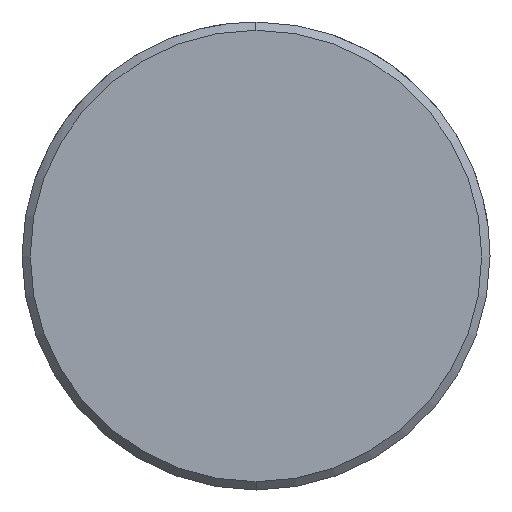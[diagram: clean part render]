
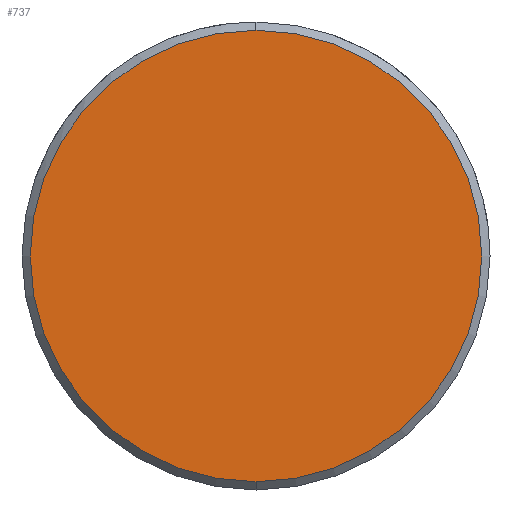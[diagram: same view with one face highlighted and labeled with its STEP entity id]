
A CAD part, left-side view. The second image highlights one B-rep face of the part: STEP entity #737.
In plain terms, the highlighted planar face has unit normal (-1, 0, 0).
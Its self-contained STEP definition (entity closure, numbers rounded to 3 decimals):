
#669=CARTESIAN_POINT('Vertex',(0.,0.,-8.2)) ;
#672=CARTESIAN_POINT('Axis2P3D Location',(0.,0.,0.)) ;
#676=CARTESIAN_POINT('Vertex',(0.,8.2,0.)) ;
#679=CARTESIAN_POINT('Axis2P3D Location',(0.,0.,0.)) ;
#683=CARTESIAN_POINT('Vertex',(0.,0.,8.2)) ;
#705=CARTESIAN_POINT('Axis2P3D Location',(0.,0.,0.)) ;
#709=CARTESIAN_POINT('Vertex',(0.,-8.2,0.)) ;
#712=CARTESIAN_POINT('Axis2P3D Location',(0.,0.,0.)) ;
#726=CARTESIAN_POINT('Axis2P3D Location',(0.,0.,0.)) ;
#673=DIRECTION('Axis2P3D Direction',(1.,0.,-0.)) ;
#680=DIRECTION('Axis2P3D Direction',(1.,0.,-0.)) ;
#706=DIRECTION('Axis2P3D Direction',(1.,0.,-0.)) ;
#713=DIRECTION('Axis2P3D Direction',(1.,0.,-0.)) ;
#727=DIRECTION('Axis2P3D Direction',(1.,0.,-0.)) ;
#728=DIRECTION('Axis2P3D XDirection',(-0.,0.,-1.)) ;
#674=AXIS2_PLACEMENT_3D('Circle Axis2P3D',#672,#673,$) ;
#681=AXIS2_PLACEMENT_3D('Circle Axis2P3D',#679,#680,$) ;
#707=AXIS2_PLACEMENT_3D('Circle Axis2P3D',#705,#706,$) ;
#714=AXIS2_PLACEMENT_3D('Circle Axis2P3D',#712,#713,$) ;
#729=AXIS2_PLACEMENT_3D('Plane Axis2P3D',#726,#727,#728) ;
#732=ORIENTED_EDGE('',*,*,#678,.F.) ;
#733=ORIENTED_EDGE('',*,*,#716,.F.) ;
#734=ORIENTED_EDGE('',*,*,#711,.F.) ;
#735=ORIENTED_EDGE('',*,*,#685,.F.) ;
#737=ADVANCED_FACE('549-14X120',(#736),#730,.F.) ;
#675=CIRCLE('generated circle',#674,8.2) ;
#682=CIRCLE('generated circle',#681,8.2) ;
#708=CIRCLE('generated circle',#707,8.2) ;
#715=CIRCLE('generated circle',#714,8.2) ;
#678=EDGE_CURVE('',#670,#677,#675,.T.) ;
#685=EDGE_CURVE('',#677,#684,#682,.T.) ;
#711=EDGE_CURVE('',#684,#710,#708,.T.) ;
#716=EDGE_CURVE('',#710,#670,#715,.T.) ;
#731=EDGE_LOOP('',(#732,#733,#734,#735)) ;
#736=FACE_OUTER_BOUND('',#731,.T.) ;
#730=PLANE('Plane',#729) ;
#670=VERTEX_POINT('',#669) ;
#677=VERTEX_POINT('',#676) ;
#684=VERTEX_POINT('',#683) ;
#710=VERTEX_POINT('',#709) ;
